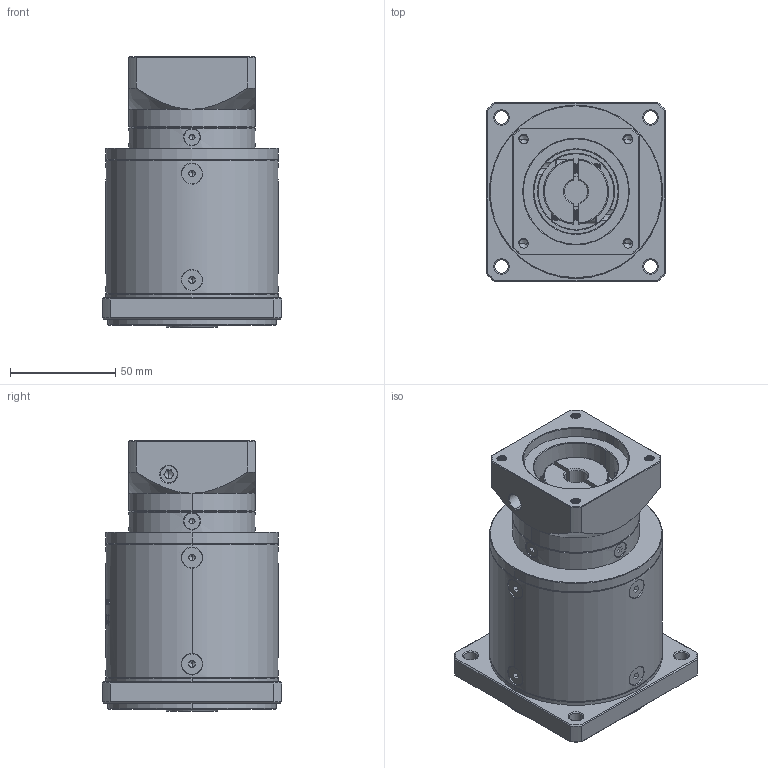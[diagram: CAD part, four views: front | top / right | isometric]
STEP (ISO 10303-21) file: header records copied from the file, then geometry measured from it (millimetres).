
FILE_DESCRIPTION (( 'STEP AP214' ), '1' );
FILE_NAME ('ZF80-K15-L3-11-50-70-M5.step', '2022-09-16T05:32:10', ( '' ), ( 'Microsoft' ), 'SwSTEP 2.0', 'SolidWorks 2016', '' );
FILE_SCHEMA (( 'AUTOMOTIVE_DESIGN' ));
Length unit declared in the file: millimetre
Products named in the file (1): ZF80-K15-L3-11-50-70-M5
Bounding box: 85 x 85 x 128.5 mm (x, y, z)
Volume: 555932.2 mm3; surface area: 71431.9 mm2
Topology: 18 solids, 18 shells, 1992 faces, 5224 edges, 3327 vertices
Faces by surface type: plane 941, cylinder 398, cone 321, bspline 318, torus 14
Entity records: 104832 total; most frequent: CARTESIAN_POINT 37168, ORIENTED_EDGE 10376, DIRECTION 8317, EDGE_CURVE 5188, VERTEX_POINT 3327, VECTOR 2819, LINE 2819, AXIS2_PLACEMENT_3D 2749
